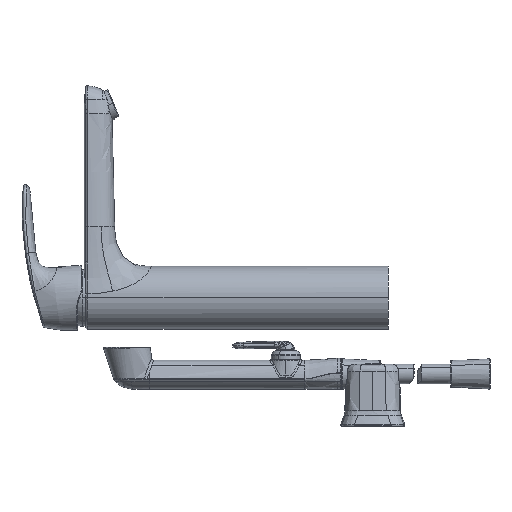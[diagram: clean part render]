
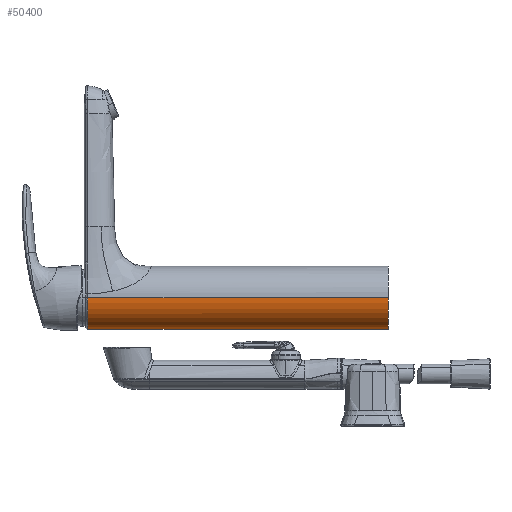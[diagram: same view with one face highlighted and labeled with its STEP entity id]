
A CAD part, left-side view. The second image highlights one B-rep face of the part: STEP entity #50400.
In plain terms, the highlighted cylindrical face has radius 24.1 mm (diameter 48.2 mm), a partial arc.
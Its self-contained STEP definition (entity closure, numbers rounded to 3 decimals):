
#1128 = VERTEX_POINT ( 'NONE', #62089 ) ;
#1152 = DIRECTION ( 'NONE',  ( 1., 0., 0. ) ) ;
#2209 = CARTESIAN_POINT ( 'NONE',  ( -24.1, 0., 0. ) ) ;
#2603 = CARTESIAN_POINT ( 'NONE',  ( -24.1, 230.674, -0.01 ) ) ;
#4389 = CARTESIAN_POINT ( 'NONE',  ( -24.1, 230.674, -0.031 ) ) ;
#6259 = CARTESIAN_POINT ( 'NONE',  ( 24.1, 230.674, -0.031 ) ) ;
#7028 = CARTESIAN_POINT ( 'NONE',  ( 0., 230.674, 0. ) ) ;
#7671 = DIRECTION ( 'NONE',  ( 0., 1., 0. ) ) ;
#7826 = EDGE_CURVE ( 'NONE', #10892, #1128, #66898, .T. ) ;
#9508 = CARTESIAN_POINT ( 'NONE',  ( -24.1, 230.674, -0.02 ) ) ;
#10839 = VECTOR ( 'NONE', #62888, 1000. ) ;
#10892 = VERTEX_POINT ( 'NONE', #34361 ) ;
#12013 = CIRCLE ( 'NONE', #69710, 24.1 ) ;
#14838 = LINE ( 'NONE', #74653, #77824 ) ;
#15474 = EDGE_LOOP ( 'NONE', ( #19069, #66202, #38396, #47549, #31661, #49506 ) ) ;
#18625 = CYLINDRICAL_SURFACE ( 'NONE', #32245, 24.1 ) ;
#19069 = ORIENTED_EDGE ( 'NONE', *, *, #35781, .T. ) ;
#19076 = DIRECTION ( 'NONE',  ( 1., 0., 0. ) ) ;
#20994 = EDGE_CURVE ( 'NONE', #65211, #1128, #54816, .T. ) ;
#27670 = CARTESIAN_POINT ( 'NONE',  ( -24.1, 230.674, -0.031 ) ) ;
#30545 = DIRECTION ( 'NONE',  ( 0., 1., 0. ) ) ;
#31661 = ORIENTED_EDGE ( 'NONE', *, *, #7826, .T. ) ;
#32245 = AXIS2_PLACEMENT_3D ( 'NONE', #55936, #30545, #19076 ) ;
#34361 = CARTESIAN_POINT ( 'NONE',  ( 24.1, 230.674, -0.031 ) ) ;
#35745 = FACE_OUTER_BOUND ( 'NONE', #15474, .T. ) ;
#35781 = EDGE_CURVE ( 'NONE', #65211, #72780, #12013, .T. ) ;
#36132 = CARTESIAN_POINT ( 'NONE',  ( 24.1, 230.674, 0. ) ) ;
#37164 = CARTESIAN_POINT ( 'NONE',  ( -24.1, 230.674, 0. ) ) ;
#38396 = ORIENTED_EDGE ( 'NONE', *, *, #67646, .T. ) ;
#38920 = CARTESIAN_POINT ( 'NONE',  ( -24.1, 230.674, 0. ) ) ;
#42558 = CARTESIAN_POINT ( 'NONE',  ( 24.1, 230.674, -0.012 ) ) ;
#47549 = ORIENTED_EDGE ( 'NONE', *, *, #54990, .T. ) ;
#49506 = ORIENTED_EDGE ( 'NONE', *, *, #20994, .F. ) ;
#50291 = DIRECTION ( 'NONE',  ( 0., -1., 0. ) ) ;
#50400 = ADVANCED_FACE ( 'NONE', ( #35745 ), #18625, .T. ) ;
#53701 = EDGE_CURVE ( 'NONE', #72780, #64643, #14838, .T. ) ;
#54816 = LINE ( 'NONE', #69798, #10839 ) ;
#54954 = CIRCLE ( 'NONE', #61923, 24.1 ) ;
#54990 = EDGE_CURVE ( 'NONE', #63844, #10892, #54954, .T. ) ;
#55936 = CARTESIAN_POINT ( 'NONE',  ( 0., 116.492, 0. ) ) ;
#60456 = DIRECTION ( 'NONE',  ( 0., 1., 0. ) ) ;
#60986 = DIRECTION ( 'NONE',  ( 1., 0., 0. ) ) ;
#61923 = AXIS2_PLACEMENT_3D ( 'NONE', #7028, #50291, #1152 ) ;
#62089 = CARTESIAN_POINT ( 'NONE',  ( 24.1, 230.674, 0. ) ) ;
#62888 = DIRECTION ( 'NONE',  ( 0., 1., 0. ) ) ;
#63844 = VERTEX_POINT ( 'NONE', #4389 ) ;
#64643 = VERTEX_POINT ( 'NONE', #37164 ) ;
#65211 = VERTEX_POINT ( 'NONE', #70814 ) ;
#66202 = ORIENTED_EDGE ( 'NONE', *, *, #53701, .T. ) ;
#66560 = CARTESIAN_POINT ( 'NONE',  ( 24.1, 230.674, -0.023 ) ) ;
#66898 = B_SPLINE_CURVE_WITH_KNOTS ( 'NONE', 3,
 ( #6259, #66560, #42558, #36132 ),
 .UNSPECIFIED., .F., .F.,
 ( 4, 4 ),
 ( 0., 0.009 ),
 .UNSPECIFIED. ) ;
#67646 = EDGE_CURVE ( 'NONE', #64643, #63844, #76232, .T. ) ;
#69710 = AXIS2_PLACEMENT_3D ( 'NONE', #72219, #60456, #60986 ) ;
#69798 = CARTESIAN_POINT ( 'NONE',  ( 24.1, 116.492, 0. ) ) ;
#70814 = CARTESIAN_POINT ( 'NONE',  ( 24.1, 0., 0. ) ) ;
#72219 = CARTESIAN_POINT ( 'NONE',  ( 0., 0., 0. ) ) ;
#72780 = VERTEX_POINT ( 'NONE', #2209 ) ;
#74653 = CARTESIAN_POINT ( 'NONE',  ( -24.1, 116.492, 0. ) ) ;
#76232 = B_SPLINE_CURVE_WITH_KNOTS ( 'NONE', 3,
 ( #38920, #2603, #9508, #27670 ),
 .UNSPECIFIED., .F., .F.,
 ( 4, 4 ),
 ( 0.993, 1. ),
 .UNSPECIFIED. ) ;
#77824 = VECTOR ( 'NONE', #7671, 1000. ) ;
